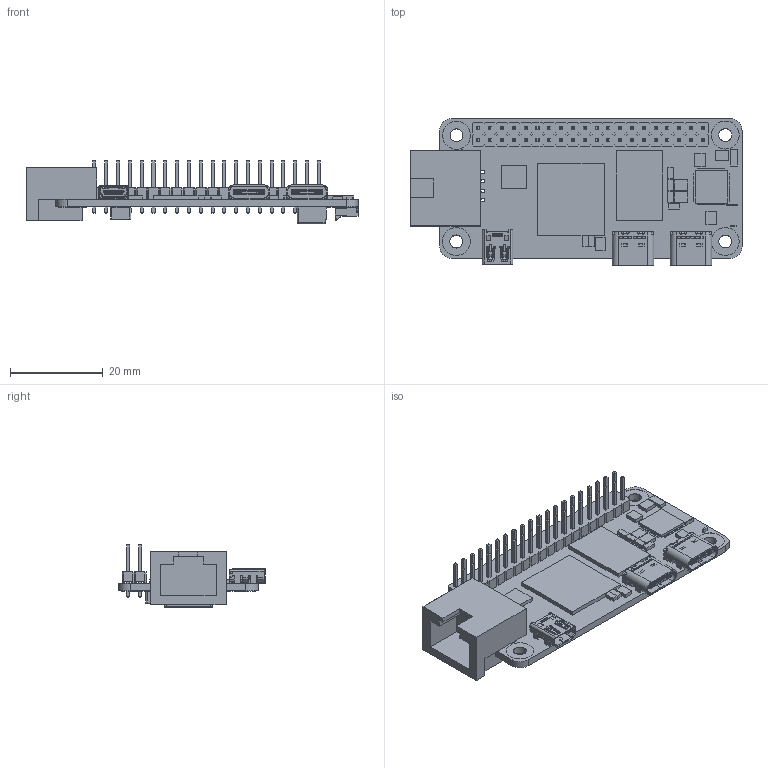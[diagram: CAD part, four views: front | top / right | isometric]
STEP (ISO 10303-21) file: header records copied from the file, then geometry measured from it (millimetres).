
FILE_DESCRIPTION((''),'2;1');
FILE_NAME('RS109_PCBA','2024-06-27T16:17:03',('admin'),(''),'CREO PARAMETRIC BY PTC INC, 2024063','CREO PARAMETRIC BY PTC INC, 2024063','');
FILE_SCHEMA(('CONFIG_CONTROL_DESIGN','SHAPE_APPEARANCE_LAYERS_GROUPS'));
Products named in the file (1): RS109_PCBA
Bounding box: 71.4 x 31.51 x 13.76 mm (x, y, z)
Volume: 6310.4 mm3; surface area: 9188.9 mm2
Topology: 1 solids, 7 shells, 4894 faces, 13897 edges, 9074 vertices
Faces by surface type: plane 3831, cylinder 957, torus 42, cone 24, bspline 22, extrusion 16, sphere 2
Entity records: 200885 total; most frequent: CARTESIAN_POINT 32296, ORIENTED_EDGE 27788, DIRECTION 24402, EDGE_CURVE 13894, VECTOR 11432, LINE 11416, VERTEX_POINT 9074, AXIS2_PLACEMENT_3D 6485
